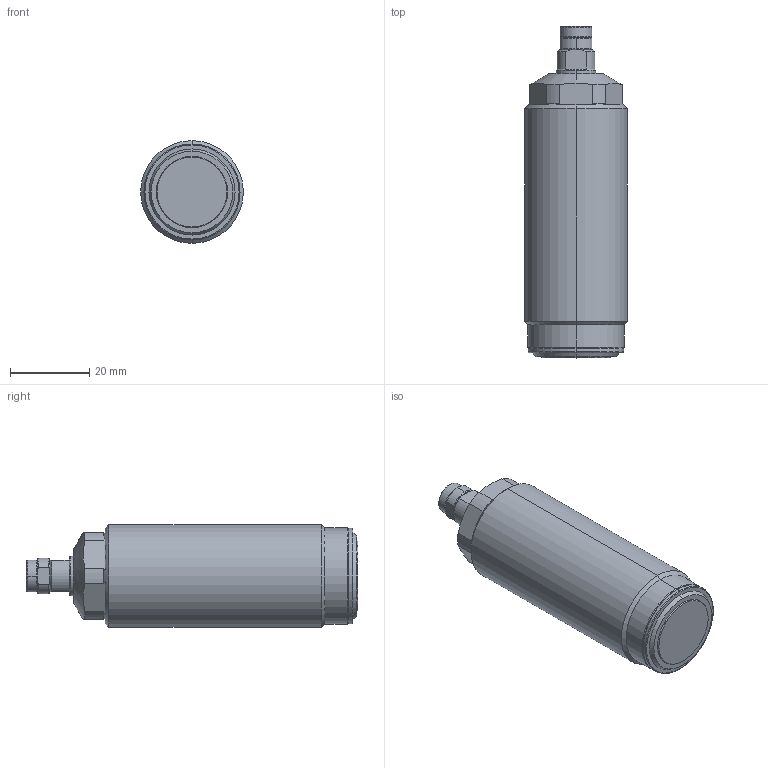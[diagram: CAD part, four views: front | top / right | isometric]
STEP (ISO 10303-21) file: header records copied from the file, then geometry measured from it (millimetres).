
FILE_DESCRIPTION(/* description */ (''),/* implementation_level */ '2;1');
FILE_NAME(/* name */ 'TSC00-QM.stp',/* time_stamp */ '2025-01-14T11:10:28+08:00',/* author */ (''),/* organization */ (''),/* preprocessor_version */ 'ST-DEVELOPER v16.7',/* originating_system */ 'SIEMENS PLM Software NX 12.0',/* authorisation */ '');
FILE_SCHEMA (('AUTOMOTIVE_DESIGN { 1 0 10303 214 3 1 1 1 }'));
Length unit declared in the file: millimetre
Products named in the file (8): XLD-M6SP_pad; XLD-M6SP_pin; XLD-M6SP_contactbolt; XLD-M6SP_Oring; TSC00-PQ-03; TSC00-PQ-02; XLDM6SP; TSC00-Q_stp
Assembly tree (7 placements, depth 3):
  TSC00-Q_stp
    TSC00-PQ-02
    TSC00-PQ-03
    XLDM6SP
      XLD-M6SP_Oring
      XLD-M6SP_contactbolt
      XLD-M6SP_pin
      XLD-M6SP_pad
Bounding box: 26 x 84 x 26 mm (x, y, z)
Volume: 36596 mm3; surface area: 8683.2 mm2
Topology: 6 solids, 6 shells, 168 faces, 387 edges, 236 vertices
Faces by surface type: cylinder 53, plane 40, cone 39, torus 32, sphere 4
Entity records: 5393 total; most frequent: CARTESIAN_POINT 1321, DIRECTION 893, ORIENTED_EDGE 774, EDGE_CURVE 387, AXIS2_PLACEMENT_3D 386, VERTEX_POINT 236, CIRCLE 210, EDGE_LOOP 183
